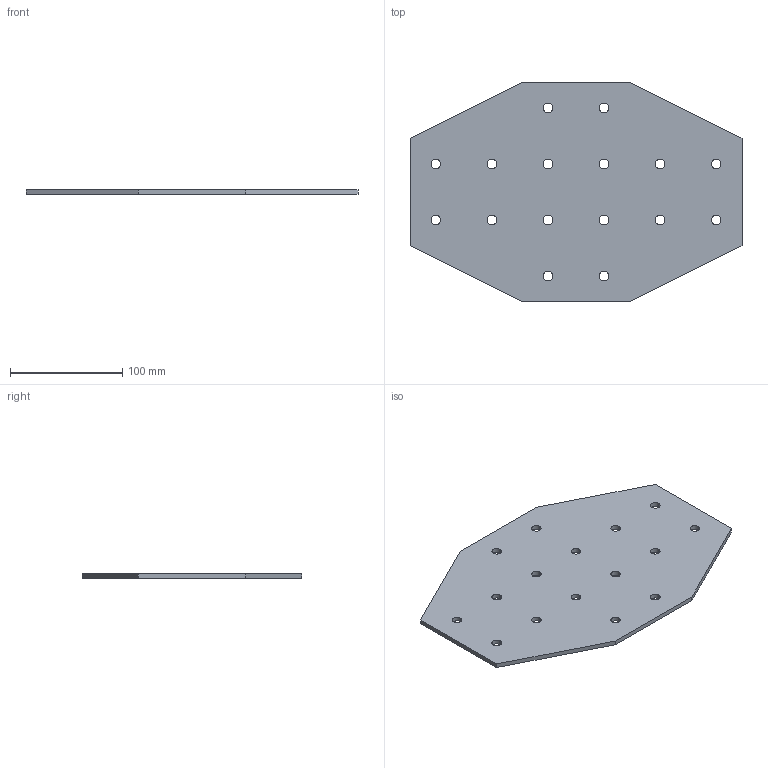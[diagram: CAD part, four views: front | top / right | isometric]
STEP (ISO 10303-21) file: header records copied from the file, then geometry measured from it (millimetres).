
FILE_DESCRIPTION (( 'STEP AP203' ), '1' );
FILE_NAME ('ﾕ-16-ﾓ-50.STEP', '2017-03-23T11:49:16', ( 'RosInstal-MKM' ), ( '' ), 'SwSTEP 2.0', 'SolidWorks 2014', '' );
FILE_SCHEMA (( 'CONFIG_CONTROL_DESIGN' ));
Length unit declared in the file: millimetre
Products named in the file (1): ﾕ-16-ﾓ-50
Bounding box: 296 x 196 x 4 mm (x, y, z)
Volume: 188432.3 mm3; surface area: 99250 mm2
Topology: 1 solids, 1 shells, 42 faces, 120 edges, 80 vertices
Faces by surface type: cylinder 32, plane 10
Entity records: 1549 total; most frequent: DIRECTION 270, CARTESIAN_POINT 243, ORIENTED_EDGE 240, EDGE_CURVE 120, AXIS2_PLACEMENT_3D 107, VERTEX_POINT 80, EDGE_LOOP 74, CIRCLE 64
